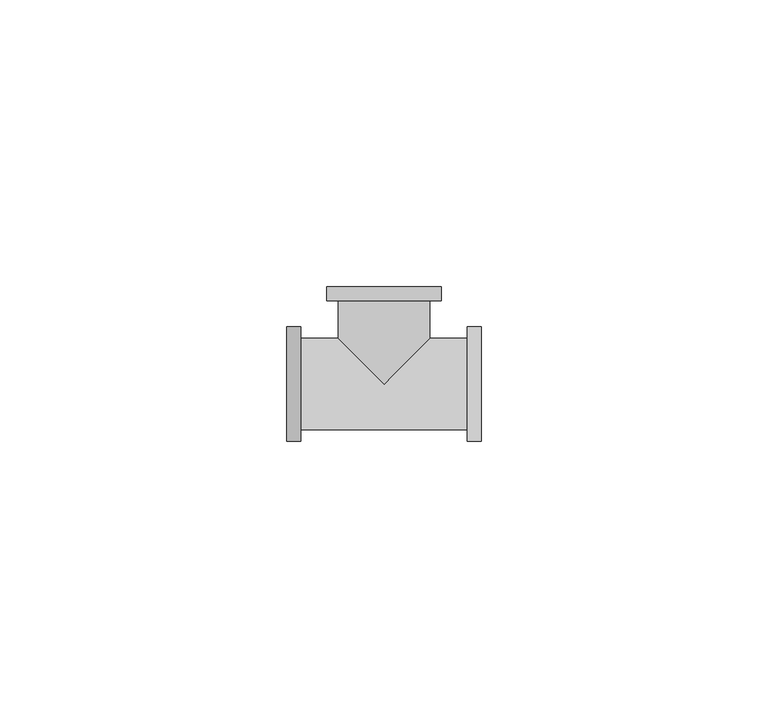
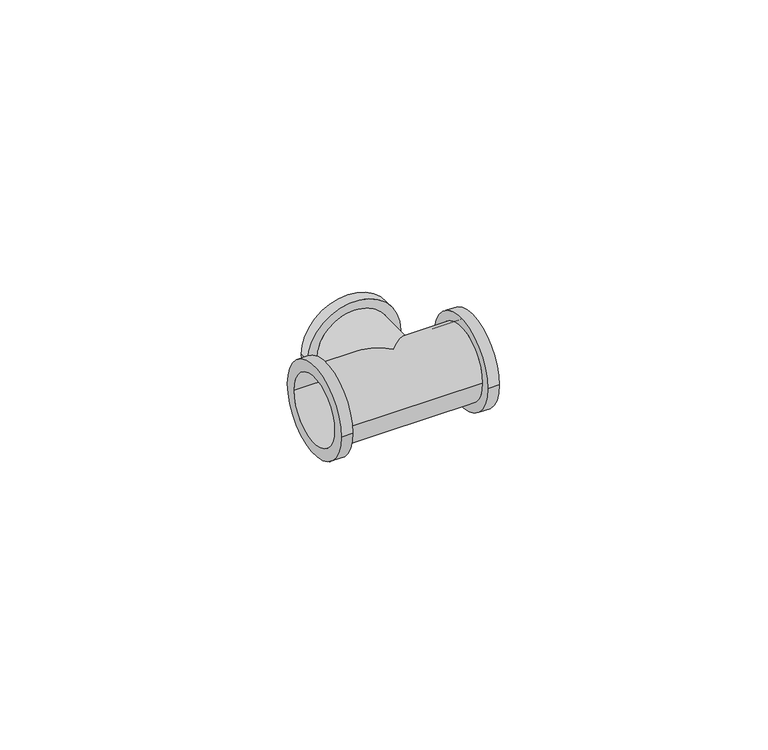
"""IFC4 building model written with IfcOpenShell, lengths in millimetres: pipe fitting geometry, БИР ПЕКС_КМП_Тройник ПЕКС : Тройник ПЕКС_КМП."""

from ifc_helpers import new_model, si_unit, frame, origin, place, context, project, spatial, polyline, circle_curve, ellipse_curve, source, transform, mapped, element, save
from ifc_brep_helpers import plane_surface, cylinder_surface, revolved_surface, advanced_brep


def pipe_fitting_ca625772(model_context):
    return source(origin(), model_context, "Body", "AdvancedBrep", [
        advanced_brep(
        [(-10.0, 17.0, 0.0), (10.0, 17.0, 0.0), (-7.5, 17.0, 0.0), (7.5, 17.0, 0.0), (8.0, 8.0, 0.0), (0.0, 0.0, -8.0), (-8.0, 8.0, 0.0), (-8.0, 14.5, 0.0), (8.0, 14.5, 0.0), (0.0, 0.0, 8.0), (17.0, -10.0, 0.0), (17.0, 10.0, 0.0), (17.0, 7.5, 0.0), (17.0, -7.5, 0.0), (-17.0, -10.0, 0.0), (-17.0, 10.0, 0.0), (-17.0, -7.5, 0.0), (-17.0, 7.5, 0.0), (14.5, 8.0, 0.0), (14.5, -8.0, 0.0), (-14.5, -8.0, 0.0), (-14.5, 8.0, 0.0), (-10.0, 14.5, 0.0), (10.0, 14.5, 0.0), (-14.5, -10.0, 0.0), (-14.5, 10.0, 0.0), (14.5, -10.0, 0.0), (14.5, 10.0, 0.0), (-7.5, 7.5, 0.0), (0.0, 0.0, -7.5), (7.5, 7.5, 0.0), (0.0, 0.0, 7.5)],
        [
            (0, 1, circle_curve(frame((0.0, 17.0, 0.0), z_axis=(0.0, 1.0, 0.0), x_axis=(1.0, 0.0, 0.0)), 10.0)),
            (1, 0, circle_curve(frame((0.0, 17.0, 0.0), z_axis=(0.0, 1.0, 0.0), x_axis=(1.0, 0.0, 0.0)), 10.0)),
            (2, 3, circle_curve(frame((0.0, 17.0, 0.0), z_axis=(0.0, -1.0, 0.0), x_axis=(1.0, 0.0, 0.0)), 7.5)),
            (3, 2, circle_curve(frame((0.0, 17.0, 0.0), z_axis=(0.0, -1.0, 0.0), x_axis=(1.0, 0.0, 0.0)), 7.5)),
            (4, 5, ellipse_curve(frame((0.0, 0.0, 0.0), z_axis=(-0.7071067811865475, 0.7071067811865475, 0.0), x_axis=(-0.7071067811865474, -0.7071067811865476, 0.0)), 11.3137085, 8.0)),
            (5, 6, ellipse_curve(frame((0.0, 0.0, 0.0), z_axis=(0.7071067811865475, 0.7071067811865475, 0.0), x_axis=(0.7071067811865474, -0.7071067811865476, 0.0)), 11.3137085, 8.0)),
            (6, 7),
            (7, 8, circle_curve(frame((0.0, 14.5, 0.0), z_axis=(0.0, -1.0, 0.0), x_axis=(1.0, 0.0, 0.0)), 8.0)),
            (8, 4),
            (9, 4, ellipse_curve(frame((0.0, 0.0, 0.0), z_axis=(-0.7071067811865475, 0.7071067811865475, 0.0), x_axis=(-0.7071067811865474, -0.7071067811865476, 0.0)), 11.3137085, 8.0)),
            (8, 7, circle_curve(frame((0.0, 14.5, 0.0), z_axis=(0.0, -1.0, 0.0), x_axis=(1.0, 0.0, 0.0)), 8.0)),
            (6, 9, ellipse_curve(frame((0.0, 0.0, 0.0), z_axis=(0.7071067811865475, 0.7071067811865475, 0.0), x_axis=(0.7071067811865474, -0.7071067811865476, 0.0)), 11.3137085, 8.0)),
            (10, 11, circle_curve(frame((17.0, 0.0, 0.0), z_axis=(1.0, 0.0, 0.0), x_axis=(0.0, 1.0, 0.0)), 10.0)),
            (11, 10, circle_curve(frame((17.0, 0.0, 0.0), z_axis=(1.0, 0.0, 0.0), x_axis=(0.0, 1.0, 0.0)), 10.0)),
            (12, 13, circle_curve(frame((17.0, 0.0, 0.0), z_axis=(-1.0, 0.0, 0.0), x_axis=(0.0, 1.0, 0.0)), 7.5)),
            (13, 12, circle_curve(frame((17.0, 0.0, 0.0), z_axis=(-1.0, 0.0, 0.0), x_axis=(0.0, 1.0, 0.0)), 7.5)),
            (14, 15, circle_curve(frame((-17.0, 0.0, 0.0), z_axis=(-1.0, 0.0, 0.0), x_axis=(0.0, 1.0, 0.0)), 10.0)),
            (15, 14, circle_curve(frame((-17.0, 0.0, 0.0), z_axis=(-1.0, 0.0, 0.0), x_axis=(0.0, 1.0, 0.0)), 10.0)),
            (16, 17, circle_curve(frame((-17.0, 0.0, 0.0), z_axis=(1.0, 0.0, 0.0), x_axis=(0.0, 1.0, 0.0)), 7.5)),
            (17, 16, circle_curve(frame((-17.0, 0.0, 0.0), z_axis=(1.0, 0.0, 0.0), x_axis=(0.0, 1.0, 0.0)), 7.5)),
            (4, 18),
            (18, 19, circle_curve(frame((14.5, 0.0, 0.0), z_axis=(-1.0, 0.0, 0.0), x_axis=(0.0, 1.0, 0.0)), 8.0)),
            (19, 20),
            (20, 21, circle_curve(frame((-14.5, 0.0, 0.0), z_axis=(1.0, 0.0, 0.0), x_axis=(0.0, 1.0, 0.0)), 8.0)),
            (21, 6),
            (21, 20, circle_curve(frame((-14.5, 0.0, 0.0), z_axis=(1.0, 0.0, 0.0), x_axis=(0.0, 1.0, 0.0)), 8.0)),
            (19, 18, circle_curve(frame((14.5, 0.0, 0.0), z_axis=(-1.0, 0.0, 0.0), x_axis=(0.0, 1.0, 0.0)), 8.0)),
            (22, 23, circle_curve(frame((0.0, 14.5, 0.0), z_axis=(0.0, -1.0, 0.0), x_axis=(1.0, 0.0, 0.0)), 10.0)),
            (23, 22, circle_curve(frame((0.0, 14.5, 0.0), z_axis=(0.0, -1.0, 0.0), x_axis=(1.0, 0.0, 0.0)), 10.0)),
            (22, 0),
            (1, 23),
            (24, 25, circle_curve(frame((-14.5, 0.0, 0.0), z_axis=(1.0, 0.0, 0.0), x_axis=(0.0, 1.0, 0.0)), 10.0)),
            (25, 24, circle_curve(frame((-14.5, 0.0, 0.0), z_axis=(1.0, 0.0, 0.0), x_axis=(0.0, 1.0, 0.0)), 10.0)),
            (15, 25),
            (24, 14),
            (26, 27, circle_curve(frame((14.5, 0.0, 0.0), z_axis=(-1.0, 0.0, 0.0), x_axis=(0.0, 1.0, 0.0)), 10.0)),
            (27, 26, circle_curve(frame((14.5, 0.0, 0.0), z_axis=(-1.0, 0.0, 0.0), x_axis=(0.0, 1.0, 0.0)), 10.0)),
            (10, 26),
            (27, 11),
            (2, 28),
            (28, 29, ellipse_curve(frame((0.0, 0.0, 0.0), z_axis=(-0.7071067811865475, -0.7071067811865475, 0.0), x_axis=(0.7071067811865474, -0.7071067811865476, 0.0)), 10.6066017, 7.5)),
            (29, 30, ellipse_curve(frame((0.0, 0.0, 0.0), z_axis=(0.7071067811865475, -0.7071067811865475, 0.0), x_axis=(-0.7071067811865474, -0.7071067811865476, 0.0)), 10.6066017, 7.5)),
            (30, 3),
            (30, 31, ellipse_curve(frame((0.0, 0.0, 0.0), z_axis=(0.7071067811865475, -0.7071067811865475, 0.0), x_axis=(-0.7071067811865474, -0.7071067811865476, 0.0)), 10.6066017, 7.5)),
            (31, 28, ellipse_curve(frame((0.0, 0.0, 0.0), z_axis=(-0.7071067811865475, -0.7071067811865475, 0.0), x_axis=(0.7071067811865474, -0.7071067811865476, 0.0)), 10.6066017, 7.5)),
            (16, 13),
            (12, 30),
            (28, 17),
        ],
        [
            plane_surface(frame((8.0, 17.0, 0.0), z_axis=(0.0, 1.0, 0.0), x_axis=(0.0, 0.0, -1.0))),
            cylinder_surface(frame((0.0, 17.0, 0.0), z_axis=(0.0, -1.0, 0.0), x_axis=(1.0, 0.0, 0.0)), 8.0),
            plane_surface(frame((17.0, 8.0, 0.0), z_axis=(1.0, 0.0, 0.0), x_axis=(0.0, 0.0, 1.0))),
            plane_surface(frame((-17.0, 8.0, 0.0), z_axis=(-1.0, 0.0, 0.0), x_axis=(0.0, 0.0, -1.0))),
            cylinder_surface(frame((-17.0, 0.0, 0.0), z_axis=(1.0, 0.0, 0.0), x_axis=(0.0, 1.0, 0.0)), 8.0),
            plane_surface(frame((10.0, 14.5, 0.0), z_axis=(0.0, -1.0, 0.0), x_axis=(0.0, 0.0, 1.0))),
            cylinder_surface(frame((0.0, 17.0, 0.0), z_axis=(0.0, -1.0, 0.0), x_axis=(1.0, 0.0, 0.0)), 10.0),
            plane_surface(frame((-14.5, 10.0, 0.0), z_axis=(1.0, 0.0, 0.0), x_axis=(0.0, 0.0, 1.0))),
            cylinder_surface(frame((-14.5, 0.0, 0.0), z_axis=(-1.0, 0.0, 0.0), x_axis=(0.0, 1.0, 0.0)), 10.0),
            plane_surface(frame((14.5, 10.0, 0.0), z_axis=(-1.0, 0.0, 0.0), x_axis=(0.0, 0.0, -1.0))),
            cylinder_surface(frame((14.5, 0.0, 0.0), z_axis=(1.0, 0.0, 0.0), x_axis=(0.0, 1.0, 0.0)), 10.0),
            revolved_surface(polyline([(7.5, -7.499999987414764, 0.0), (7.5, 17.0, 0.0)]), (0.0, 17.0, 0.0), (0.0, -1.0, 0.0)),
            revolved_surface(polyline([(17.0, 7.5, 0.0), (-17.0, 7.5, 0.0)]), (-17.0, 0.0, 0.0), (1.0, 0.0, 0.0)),
        ],
        [
            (0, [[1, 2], [3, 4]]),
            (1, [[5, 6, 7, 8, 9]]),
            (1, [[10, -9, 11, -7, 12]]),
            (2, [[13, 14], [15, 16]]),
            (3, [[17, 18], [19, 20]]),
            (4, [[-5, 21, 22, 23, 24, 25, -6]]),
            (4, [[-10, -12, -25, 26, -23, 27, -21]]),
            (5, [[28, 29], [-8, -11]]),
            (6, [[-28, 30, -2, 31]]),
            (6, [[-29, -31, -1, -30]]),
            (7, [[32, 33], [-24, -26]]),
            (8, [[-18, 34, -32, 35]]),
            (8, [[-17, -35, -33, -34]]),
            (9, [[36, 37], [-22, -27]]),
            (10, [[-13, 38, -37, 39]]),
            (10, [[-14, -39, -36, -38]]),
            (11, [[-3, 40, 41, 42, 43]]),
            (11, [[-4, -43, 44, 45, -40]]),
            (12, [[46, -15, 47, -42, -41, 48, -19]]),
            (12, [[-46, -20, -48, -45, -44, -47, -16]]),
        ],
    ),
    ])


if __name__ == "__main__":
    model = new_model("IFC4")
    model_context = context("Model", 3, world=origin())
    ifc_project = project(units=[si_unit("LENGTHUNIT", "METRE", prefix="MILLI")], contexts=[model_context])
    site = spatial("IfcSite", under=ifc_project)
    building = spatial("IfcBuilding", under=site)
    placement = place(None, origin())
    pipe_fitting_shape = pipe_fitting_ca625772(model_context)
    element("IfcPipeFitting", 1, ObjectType="БИР ПЕКС_КМП_Тройник ПЕКС : Тройник ПЕКС_КМП", at=placement, inside=building, context=model_context, shape_type="MappedRepresentation", body=[
        mapped(pipe_fitting_shape, transform((0.0, 0.0, 0.0), x_axis=(1.0, 0.0, 0.0), y_axis=(0.0, 1.0, 0.0), z_axis=(0.0, 0.0, 1.0))),
    ])
    save(model, "model.ifc")
